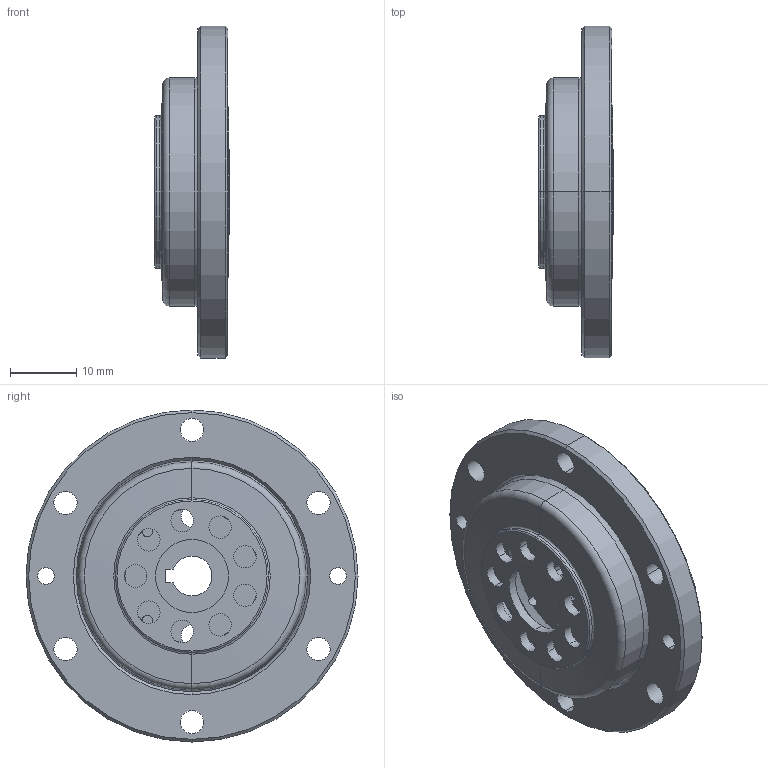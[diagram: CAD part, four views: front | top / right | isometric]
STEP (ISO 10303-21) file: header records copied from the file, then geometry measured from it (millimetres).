
FILE_DESCRIPTION (( 'STEP AP203' ), '1' );
FILE_NAME ('LCD-14-XXX-P-I.STEP', '2017-04-06T06:53:02', ( 'Windows 蚚誧' ), ( 'Users' ), 'SwSTEP 2.0', 'SolidWorks 2013', '' );
FILE_SCHEMA (( 'CONFIG_CONTROL_DESIGN' ));
Length unit declared in the file: millimetre
Products named in the file (9): DB-14-I; countersunk flat head cross recess screw_din_ISO 7046-1 - M2 x 3 - Z --- 3C; LHS-14-XXX-P02; LCD-14-XXX-P01; LCD-14-XXX-P-I; LCD-14-XXX-P03; RZC-14悵厥殤; RZC-14内外圈+钢球; 柔性轴承RZC-14
Assembly tree (11 placements, depth 3):
  LCD-14-XXX-P-I
    LCD-14-XXX-P03
    柔性轴承RZC-14
      RZC-14悵厥殤
      RZC-14内外圈+钢球
    DB-14-I
    countersunk flat head cross recess screw_din_ISO 7046-1 - M2 x 3 - Z --- 3C  x4
    LHS-14-XXX-P02
    LCD-14-XXX-P01
Bounding box: 11.2 x 50 x 50 mm (x, y, z)
Volume: 8573.1 mm3; surface area: 13645.9 mm2
Topology: 34 solids, 34 shells, 519 faces, 1337 edges, 837 vertices
Faces by surface type: cylinder 177, plane 158, cone 90, torus 48, sphere 46
Entity records: 13019 total; most frequent: DIRECTION 2341, CARTESIAN_POINT 2194, ORIENTED_EDGE 1876, AXIS2_PLACEMENT_3D 1021, EDGE_CURVE 938, CIRCLE 610, VERTEX_POINT 606, EDGE_LOOP 470
